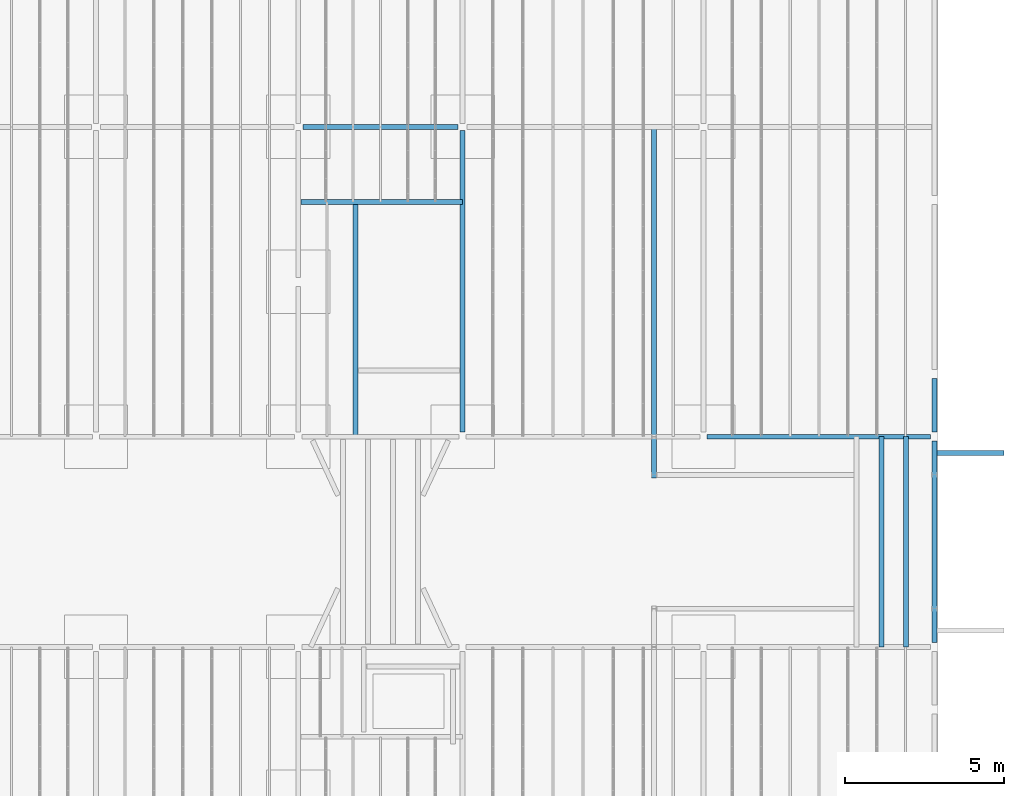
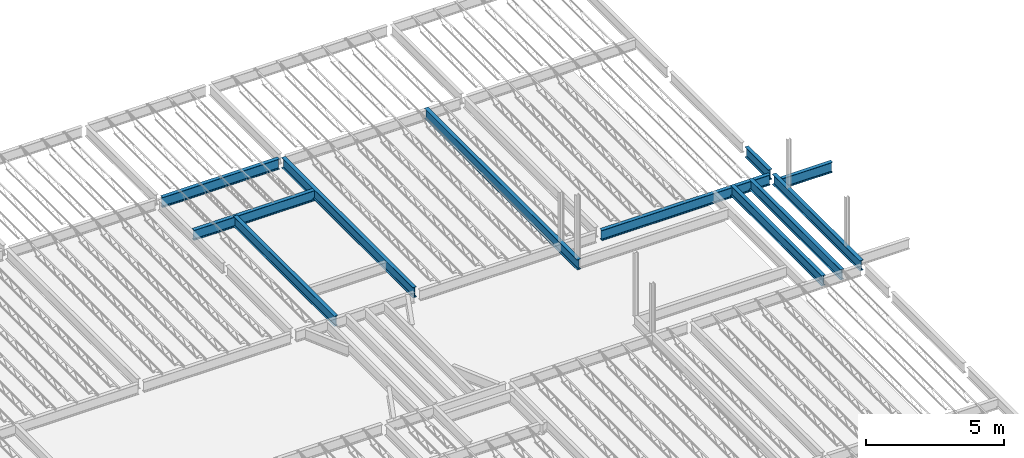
# One storey, part 14 of 75: 11 beams.
"""IFC2X3 building model written with IfcOpenShell, lengths in metres."""

from ifc_helpers import new_model, entity, si_unit, converted_unit, frame, frame_2d, origin, place, context, project, spatial, polyline, circle_curve, parameter, trimmed, segment, composite_curve, outline, extrude, material, element, save


model = new_model("IFC2X3")

# Units and contexts
model_context = context("Model", 3, precision=1e-09, world=origin())
plan_context = context("Plan", 3, precision=1e-09, world=origin())
ifc_project = project(units=[si_unit("LENGTHUNIT", "METRE"), si_unit("AREAUNIT", "SQUARE_METRE"), si_unit("VOLUMEUNIT", "CUBIC_METRE"), converted_unit("PLANEANGLEUNIT", "DEGREE", entity("IfcRatioMeasure", 0.01745329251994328), si_unit("PLANEANGLEUNIT", "RADIAN"), dimensions=[0, 0, 0, 0, 0, 0, 0]), si_unit("TIMEUNIT", "SECOND")], contexts=[model_context, plan_context])

# Site, building, storey
site_placement = place(None, origin())
site = spatial("IfcSite", under=ifc_project, at=site_placement, Name="Default", CompositionType="ELEMENT")
building_placement = place(site_placement, origin())
building = spatial("IfcBuilding", under=site, at=building_placement, CompositionType="ELEMENT")
storey_placement = place(building_placement, origin())
storey = spatial("IfcBuildingStorey", under=building, at=storey_placement, Name="First Floor", CompositionType="ELEMENT", Elevation=-3.531500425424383e-13)

# Beams
ifc_material = material(Name="Metal - Steel - 345 MPa")
beam_1_placement = place(storey_placement, frame((0.001880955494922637, 35.00999999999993, 4.404500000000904), z_axis=(0.0, 0.0, 1.0), x_axis=(0.0, 1.0, 0.0)))
element("IfcBeam", 1, at=beam_1_placement, inside=storey, material=ifc_material, Name="M_W-Wide Flange:W460X60:W460X60", ObjectType="M_W-Wide Flange:W460X60", context=model_context, shape_type="SweptSolid", body=[
    extrude(outline(composite_curve([segment(polyline([(0.2141999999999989, -0.07649999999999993), (0.2274999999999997, -0.07649999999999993)]), True, "CONTINUOUS"), segment(polyline([(0.2274999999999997, -0.07649999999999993), (0.2274999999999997, 0.07649999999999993)]), True, "CONTINUOUS"), segment(polyline([(0.2274999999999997, 0.07649999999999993), (0.2141999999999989, 0.07649999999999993)]), True, "CONTINUOUS"), segment(polyline([(0.2141999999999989, 0.07649999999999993), (0.2141999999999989, 0.0216999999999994)]), True, "CONTINUOUS"), segment(trimmed(circle_curve(frame_2d((0.1964999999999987, 0.0216999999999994), x_axis=(1.0, 0.0)), 0.0177), [parameter(269.9999999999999)], [parameter(359.9999999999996)], True, "PARAMETER"), False, "CONTINUOUS"), segment(polyline([(0.1964999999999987, 0.003999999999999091), (-0.1965000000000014, 0.003999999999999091)]), True, "CONTINUOUS"), segment(trimmed(circle_curve(frame_2d((-0.1965000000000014, 0.0216999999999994), x_axis=(0.0, -1.0)), 0.0177), [parameter(269.9999999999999)], [parameter(359.9999999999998)], True, "PARAMETER"), False, "CONTINUOUS"), segment(polyline([(-0.2142000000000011, 0.0216999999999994), (-0.2142000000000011, 0.07649999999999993)]), True, "CONTINUOUS"), segment(polyline([(-0.2142000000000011, 0.07649999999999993), (-0.2275000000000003, 0.07649999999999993)]), True, "CONTINUOUS"), segment(polyline([(-0.2275000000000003, 0.07649999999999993), (-0.2275000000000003, -0.07649999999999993)]), True, "CONTINUOUS"), segment(polyline([(-0.2275000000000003, -0.07649999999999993), (-0.2142000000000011, -0.07649999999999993)]), True, "CONTINUOUS"), segment(polyline([(-0.2142000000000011, -0.07649999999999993), (-0.2142000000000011, -0.0216999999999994)]), True, "CONTINUOUS"), segment(trimmed(circle_curve(frame_2d((-0.1965000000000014, -0.0216999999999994), x_axis=(-1.0, 0.0)), 0.0177), [parameter(269.9999999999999)], [parameter(359.9999999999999)], True, "PARAMETER"), False, "CONTINUOUS"), segment(polyline([(-0.1965000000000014, -0.003999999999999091), (0.1964999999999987, -0.003999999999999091)]), True, "CONTINUOUS"), segment(trimmed(circle_curve(frame_2d((0.1964999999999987, -0.0216999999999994), x_axis=(0.0, 1.0)), 0.0177), [parameter(269.9999999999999)], [parameter(5.088887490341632e-14)], True, "PARAMETER"), False, "CONTINUOUS"), segment(polyline([(0.2141999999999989, -0.0216999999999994), (0.2141999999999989, -0.07649999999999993)]), True, "CONTINUOUS")], self_intersect=False)), frame((0.0, 7.167180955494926, -0.2275000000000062), z_axis=(0.0, -1.0, 0.0), x_axis=(0.0, 0.0, -1.0)), (0.0, 0.0, 1.0), 7.050599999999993),
])
beam_2_placement = place(storey_placement, frame((0.0, 35.00980882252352, 4.46800000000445), z_axis=(0.0, 0.0, 1.0), x_axis=(-1.0, 0.0, 0.0)))
element("IfcBeam", 2, at=beam_2_placement, inside=storey, material=ifc_material, Name="M_W-Wide Flange:W460X60:W460X60", ObjectType="M_W-Wide Flange:W460X60", context=model_context, shape_type="SweptSolid", body=[
    extrude(outline(composite_curve([segment(polyline([(0.2142000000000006, -0.07650000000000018), (0.2275000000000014, -0.07650000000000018)]), True, "CONTINUOUS"), segment(polyline([(0.2275000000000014, -0.07650000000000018), (0.2275000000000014, 0.07650000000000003)]), True, "CONTINUOUS"), segment(polyline([(0.2275000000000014, 0.07650000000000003), (0.2142000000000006, 0.07650000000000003)]), True, "CONTINUOUS"), segment(polyline([(0.2142000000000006, 0.07650000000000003), (0.2142000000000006, 0.02169999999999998)]), True, "CONTINUOUS"), segment(trimmed(circle_curve(frame_2d((0.1965000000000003, 0.02169999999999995), x_axis=(1.0, 0.0)), 0.0177), [parameter(269.9999999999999)], [parameter(359.9999999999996)], True, "PARAMETER"), False, "CONTINUOUS"), segment(polyline([(0.1965000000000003, 0.003999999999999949), (-0.1964999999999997, 0.003999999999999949)]), True, "CONTINUOUS"), segment(trimmed(circle_curve(frame_2d((-0.1964999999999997, 0.02169999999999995), x_axis=(0.0, -1.0)), 0.0177), [parameter(269.9999999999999)], [parameter(359.9999999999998)], True, "PARAMETER"), False, "CONTINUOUS"), segment(polyline([(-0.2141999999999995, 0.02169999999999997), (-0.2141999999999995, 0.07650000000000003)]), True, "CONTINUOUS"), segment(polyline([(-0.2141999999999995, 0.07650000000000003), (-0.2274999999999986, 0.07650000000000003)]), True, "CONTINUOUS"), segment(polyline([(-0.2274999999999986, 0.07650000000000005), (-0.2274999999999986, -0.07649999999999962)]), True, "CONTINUOUS"), segment(polyline([(-0.2274999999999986, -0.07649999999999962), (-0.2141999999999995, -0.07649999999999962)]), True, "CONTINUOUS"), segment(polyline([(-0.2141999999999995, -0.07649999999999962), (-0.2141999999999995, -0.02170000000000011)]), True, "CONTINUOUS"), segment(trimmed(circle_curve(frame_2d((-0.1964999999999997, -0.02170000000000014), x_axis=(-1.0, 0.0)), 0.0177), [parameter(269.9999999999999)], [parameter(359.9999999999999)], True, "PARAMETER"), False, "CONTINUOUS"), segment(polyline([(-0.1964999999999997, -0.004000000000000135), (0.1965000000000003, -0.004000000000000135)]), True, "CONTINUOUS"), segment(trimmed(circle_curve(frame_2d((0.1965000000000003, -0.02170000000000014), x_axis=(0.0, 1.0)), 0.0177), [parameter(269.9999999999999)], [parameter(5.088887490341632e-14)], True, "PARAMETER"), False, "CONTINUOUS"), segment(polyline([(0.2142000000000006, -0.02170000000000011), (0.2142000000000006, -0.07650000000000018)]), True, "CONTINUOUS")], self_intersect=False)), frame((0.0, 6.488608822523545, -0.2275000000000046), z_axis=(0.0, -1.0, 0.0), x_axis=(0.0, 0.0, -1.0)), (0.0, 0.0, 1.0), 6.347599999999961),
])
beam_3_placement = place(storey_placement, frame((-8.840191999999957, 44.62709440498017, 4.46800000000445), z_axis=(0.0, 0.0, 1.0), x_axis=(-1.0, 0.0, 0.0)))
element("IfcBeam", 3, at=beam_3_placement, inside=storey, material=ifc_material, Name="M_W-Wide Flange:W460X60:W460X60", ObjectType="M_W-Wide Flange:W460X60", context=model_context, shape_type="SweptSolid", body=[
    extrude(outline(composite_curve([segment(polyline([(0.2141999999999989, -0.07650000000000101), (0.2274999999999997, -0.07650000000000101)]), True, "CONTINUOUS"), segment(polyline([(0.2274999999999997, -0.07650000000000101), (0.2274999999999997, 0.07649999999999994)]), True, "CONTINUOUS"), segment(polyline([(0.2274999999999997, 0.07649999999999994), (0.2141999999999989, 0.07649999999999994)]), True, "CONTINUOUS"), segment(polyline([(0.2141999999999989, 0.07649999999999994), (0.2141999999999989, 0.0216999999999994)]), True, "CONTINUOUS"), segment(trimmed(circle_curve(frame_2d((0.1964999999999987, 0.0216999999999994), x_axis=(0.0, 1.0)), 0.0177), [parameter(180.0)], [parameter(269.9999999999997)], True, "PARAMETER"), False, "CONTINUOUS"), segment(polyline([(0.1964999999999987, 0.00399999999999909), (-0.1965000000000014, 0.00399999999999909)]), True, "CONTINUOUS"), segment(trimmed(circle_curve(frame_2d((-0.1965000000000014, 0.0216999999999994), x_axis=(0.0, 1.0)), 0.0177), [parameter(90.00000000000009)], [parameter(179.9999999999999)], True, "PARAMETER"), False, "CONTINUOUS"), segment(polyline([(-0.2142000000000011, 0.0216999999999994), (-0.2142000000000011, 0.07649999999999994)]), True, "CONTINUOUS"), segment(polyline([(-0.2142000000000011, 0.07649999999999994), (-0.2275000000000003, 0.07649999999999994)]), True, "CONTINUOUS"), segment(polyline([(-0.2275000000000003, 0.07649999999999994), (-0.2275000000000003, -0.07649999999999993)]), True, "CONTINUOUS"), segment(polyline([(-0.2275000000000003, -0.07649999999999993), (-0.2142000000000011, -0.07649999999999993)]), True, "CONTINUOUS"), segment(polyline([(-0.2142000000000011, -0.07649999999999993), (-0.2142000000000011, -0.02170000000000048)]), True, "CONTINUOUS"), segment(trimmed(circle_curve(frame_2d((-0.1965000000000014, -0.02170000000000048), x_axis=(0.0, 1.0)), 0.0177), [parameter(359.9999999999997)], [parameter(89.99999999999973)], True, "PARAMETER"), False, "CONTINUOUS"), segment(polyline([(-0.1965000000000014, -0.004000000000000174), (0.1964999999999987, -0.004000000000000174)]), True, "CONTINUOUS"), segment(trimmed(circle_curve(frame_2d((0.1964999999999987, -0.02170000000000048), x_axis=(0.0, 1.0)), 0.0177), [parameter(269.9999999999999)], [parameter(0.0)], True, "PARAMETER"), False, "CONTINUOUS"), segment(polyline([(0.2141999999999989, -0.02170000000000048), (0.2141999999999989, -0.07650000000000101)]), True, "CONTINUOUS")], self_intersect=False)), frame((0.0, 10.92209440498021, -0.2275000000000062), z_axis=(0.0, -1.0, 0.0), x_axis=(0.0, 0.0, -1.0)), (0.0, 0.0, 1.0), 11.07500000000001),
])
beam_4_placement = place(storey_placement, frame((0.0, 36.99916251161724, 4.46800000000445), z_axis=(0.0, 0.0, 1.0), x_axis=(-1.0, 0.0, 0.0)))
element("IfcBeam", 4, at=beam_4_placement, inside=storey, material=ifc_material, Name="M_W-Wide Flange:W460X60:W460X60", ObjectType="M_W-Wide Flange:W460X60", context=model_context, shape_type="SweptSolid", body=[
    extrude(outline(composite_curve([segment(polyline([(0.2142000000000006, -0.07650000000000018), (0.2275000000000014, -0.07650000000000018)]), True, "CONTINUOUS"), segment(polyline([(0.2275000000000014, -0.07650000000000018), (0.2275000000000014, 0.07650000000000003)]), True, "CONTINUOUS"), segment(polyline([(0.2275000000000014, 0.07650000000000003), (0.2142000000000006, 0.07650000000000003)]), True, "CONTINUOUS"), segment(polyline([(0.2142000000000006, 0.07650000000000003), (0.2142000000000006, 0.02169999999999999)]), True, "CONTINUOUS"), segment(trimmed(circle_curve(frame_2d((0.1965000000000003, 0.02169999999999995), x_axis=(0.0, 1.0)), 0.0177), [parameter(180.0)], [parameter(269.9999999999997)], True, "PARAMETER"), False, "CONTINUOUS"), segment(polyline([(0.1965000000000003, 0.003999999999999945), (-0.1964999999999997, 0.003999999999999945)]), True, "CONTINUOUS"), segment(trimmed(circle_curve(frame_2d((-0.1964999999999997, 0.02169999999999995), x_axis=(0.0, 1.0)), 0.0177), [parameter(90.00000000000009)], [parameter(179.9999999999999)], True, "PARAMETER"), False, "CONTINUOUS"), segment(polyline([(-0.2141999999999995, 0.02169999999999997), (-0.2141999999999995, 0.07650000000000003)]), True, "CONTINUOUS"), segment(polyline([(-0.2141999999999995, 0.07650000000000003), (-0.2274999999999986, 0.07650000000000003)]), True, "CONTINUOUS"), segment(polyline([(-0.2274999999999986, 0.07650000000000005), (-0.2274999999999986, -0.07649999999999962)]), True, "CONTINUOUS"), segment(polyline([(-0.2274999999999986, -0.07649999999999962), (-0.2141999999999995, -0.07649999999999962)]), True, "CONTINUOUS"), segment(polyline([(-0.2141999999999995, -0.07649999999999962), (-0.2141999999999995, -0.02170000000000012)]), True, "CONTINUOUS"), segment(trimmed(circle_curve(frame_2d((-0.1964999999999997, -0.02170000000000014), x_axis=(0.0, 1.0)), 0.0177), [parameter(359.9999999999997)], [parameter(89.99999999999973)], True, "PARAMETER"), False, "CONTINUOUS"), segment(polyline([(-0.1964999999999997, -0.004000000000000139), (0.1965000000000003, -0.004000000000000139)]), True, "CONTINUOUS"), segment(trimmed(circle_curve(frame_2d((0.1965000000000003, -0.02170000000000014), x_axis=(0.0, 1.0)), 0.0177), [parameter(269.9999999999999)], [parameter(0.0)], True, "PARAMETER"), False, "CONTINUOUS"), segment(polyline([(0.2142000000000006, -0.0217000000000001), (0.2142000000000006, -0.07650000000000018)]), True, "CONTINUOUS")], self_intersect=False)), frame((0.0, 1.847962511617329, -0.2275000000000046), z_axis=(0.0, -1.0, 0.0), x_axis=(0.0, 0.0, -1.0)), (0.0, 0.0, 1.0), 1.698844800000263),
])
beam_5_placement = place(storey_placement, frame((-0.8901037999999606, 28.65946174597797, 4.46800000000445)))
element("IfcBeam", 5, at=beam_5_placement, inside=storey, material=ifc_material, Name="M_W-Wide Flange:W460X60:W460X60", ObjectType="M_W-Wide Flange:W460X60", context=model_context, shape_type="SweptSolid", body=[
    extrude(outline(composite_curve([segment(polyline([(-0.07650000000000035, -0.2142), (-0.07650000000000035, -0.2275000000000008)]), True, "CONTINUOUS"), segment(polyline([(-0.07650000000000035, -0.2275000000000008), (0.07649999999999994, -0.2275000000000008)]), True, "CONTINUOUS"), segment(polyline([(0.07649999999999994, -0.2275000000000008), (0.07649999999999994, -0.2142)]), True, "CONTINUOUS"), segment(polyline([(0.07649999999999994, -0.2142), (0.02169999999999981, -0.2142)]), True, "CONTINUOUS"), segment(trimmed(circle_curve(frame_2d((0.02169999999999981, -0.1964999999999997), x_axis=(1.0, 0.0)), 0.0177), [parameter(180.0)], [parameter(269.9999999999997)], True, "PARAMETER"), False, "CONTINUOUS"), segment(polyline([(0.003999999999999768, -0.1964999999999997), (0.003999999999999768, 0.1965000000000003)]), True, "CONTINUOUS"), segment(trimmed(circle_curve(frame_2d((0.02169999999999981, 0.1965000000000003), x_axis=(1.0, 0.0)), 0.0177), [parameter(90.00000000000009)], [parameter(179.9999999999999)], True, "PARAMETER"), False, "CONTINUOUS"), segment(polyline([(0.02169999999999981, 0.2142000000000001), (0.07649999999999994, 0.2142000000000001)]), True, "CONTINUOUS"), segment(polyline([(0.07649999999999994, 0.2142000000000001), (0.07649999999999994, 0.2274999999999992)]), True, "CONTINUOUS"), segment(polyline([(0.07649999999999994, 0.2274999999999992), (-0.0764999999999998, 0.2274999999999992)]), True, "CONTINUOUS"), segment(polyline([(-0.0764999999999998, 0.2274999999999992), (-0.0764999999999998, 0.2142000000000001)]), True, "CONTINUOUS"), segment(polyline([(-0.0764999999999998, 0.2142000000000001), (-0.02170000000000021, 0.2142000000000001)]), True, "CONTINUOUS"), segment(trimmed(circle_curve(frame_2d((-0.02170000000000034, 0.1965000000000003), x_axis=(1.0, 0.0)), 0.0177), [parameter(359.9999999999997)], [parameter(89.99999999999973)], True, "PARAMETER"), False, "CONTINUOUS"), segment(polyline([(-0.004000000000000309, 0.1965000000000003), (-0.004000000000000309, -0.1964999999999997)]), True, "CONTINUOUS"), segment(trimmed(circle_curve(frame_2d((-0.02170000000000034, -0.1964999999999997), x_axis=(1.0, 0.0)), 0.0177), [parameter(269.9999999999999)], [parameter(0.0)], True, "PARAMETER"), False, "CONTINUOUS"), segment(polyline([(-0.02170000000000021, -0.2142), (-0.07650000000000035, -0.2142)]), True, "CONTINUOUS")], self_intersect=False)), frame((0.0, -0.2794617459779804, -0.2275000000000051), z_axis=(0.0, -1.0, 0.0), x_axis=(1.0, 0.0, 0.0)), (0.0, 0.0, -1.0), 6.629999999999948),
])
beam_6_placement = place(storey_placement, frame((-1.670103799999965, 28.65946174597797, 4.46800000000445)))
element("IfcBeam", 6, at=beam_6_placement, inside=storey, material=ifc_material, Name="M_W-Wide Flange:W460X60:W460X60", ObjectType="M_W-Wide Flange:W460X60", context=model_context, shape_type="SweptSolid", body=[
    extrude(outline(composite_curve([segment(polyline([(-0.07649999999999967, -0.2142), (-0.07649999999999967, -0.2275000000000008)]), True, "CONTINUOUS"), segment(polyline([(-0.07649999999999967, -0.2275000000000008), (0.07650000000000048, -0.2275000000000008)]), True, "CONTINUOUS"), segment(polyline([(0.07650000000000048, -0.2275000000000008), (0.07650000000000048, -0.2142)]), True, "CONTINUOUS"), segment(polyline([(0.07650000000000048, -0.2142), (0.02170000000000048, -0.2142)]), True, "CONTINUOUS"), segment(trimmed(circle_curve(frame_2d((0.02170000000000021, -0.1964999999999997), x_axis=(1.0, 0.0)), 0.0177), [parameter(180.0)], [parameter(269.9999999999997)], True, "PARAMETER"), False, "CONTINUOUS"), segment(polyline([(0.004000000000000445, -0.1964999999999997), (0.004000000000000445, 0.1965000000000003)]), True, "CONTINUOUS"), segment(trimmed(circle_curve(frame_2d((0.02170000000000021, 0.1965000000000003), x_axis=(1.0, 0.0)), 0.0177), [parameter(90.00000000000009)], [parameter(179.9999999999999)], True, "PARAMETER"), False, "CONTINUOUS"), segment(polyline([(0.02170000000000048, 0.2142000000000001), (0.07650000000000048, 0.2142000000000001)]), True, "CONTINUOUS"), segment(polyline([(0.07650000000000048, 0.2142000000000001), (0.07650000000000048, 0.2274999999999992)]), True, "CONTINUOUS"), segment(polyline([(0.07650000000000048, 0.2274999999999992), (-0.07649999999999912, 0.2274999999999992)]), True, "CONTINUOUS"), segment(polyline([(-0.07649999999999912, 0.2274999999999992), (-0.07649999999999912, 0.2142000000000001)]), True, "CONTINUOUS"), segment(polyline([(-0.07649999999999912, 0.2142000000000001), (-0.02169999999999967, 0.2142000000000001)]), True, "CONTINUOUS"), segment(trimmed(circle_curve(frame_2d((-0.02169999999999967, 0.1965000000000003), x_axis=(1.0, 0.0)), 0.0177), [parameter(359.9999999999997)], [parameter(89.99999999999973)], True, "PARAMETER"), False, "CONTINUOUS"), segment(polyline([(-0.003999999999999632, 0.1965000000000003), (-0.003999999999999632, -0.1964999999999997)]), True, "CONTINUOUS"), segment(trimmed(circle_curve(frame_2d((-0.02169999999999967, -0.1964999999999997), x_axis=(1.0, 0.0)), 0.0177), [parameter(269.9999999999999)], [parameter(0.0)], True, "PARAMETER"), False, "CONTINUOUS"), segment(polyline([(-0.02169999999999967, -0.2142), (-0.07649999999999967, -0.2142)]), True, "CONTINUOUS")], self_intersect=False)), frame((0.0, -0.2794617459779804, -0.2275000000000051), z_axis=(0.0, -1.0, 0.0), x_axis=(1.0, 0.0, 0.0)), (0.0, 0.0, -1.0), 6.629999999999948),
])
beam_7_placement = place(storey_placement, frame((-20.06264315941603, 44.78, 4.404500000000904), z_axis=(0.0, 0.0, 1.0), x_axis=(0.0, -1.0, 0.0)))
element("IfcBeam", 7, at=beam_7_placement, inside=storey, material=ifc_material, Name="M_W-Wide Flange:W460X60:W460X60", ObjectType="M_W-Wide Flange:W460X60", context=model_context, shape_type="SweptSolid", body=[
    extrude(outline(composite_curve([segment(polyline([(-0.07649999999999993, -0.2142000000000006), (-0.07649999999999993, -0.2275000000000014)]), True, "CONTINUOUS"), segment(polyline([(-0.07649999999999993, -0.2275000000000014), (0.07649999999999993, -0.2275000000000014)]), True, "CONTINUOUS"), segment(polyline([(0.07649999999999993, -0.2275000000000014), (0.07649999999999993, -0.2142000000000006)]), True, "CONTINUOUS"), segment(polyline([(0.07649999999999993, -0.2142000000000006), (0.02170000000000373, -0.2142000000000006)]), True, "CONTINUOUS"), segment(trimmed(circle_curve(frame_2d((0.02170000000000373, -0.1965000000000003), x_axis=(0.0, -1.0)), 0.0177), [parameter(269.9999999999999)], [parameter(359.9999999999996)], True, "PARAMETER"), False, "CONTINUOUS"), segment(polyline([(0.003999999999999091, -0.1965000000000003), (0.003999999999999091, 0.1964999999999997)]), True, "CONTINUOUS"), segment(trimmed(circle_curve(frame_2d((0.02170000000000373, 0.1964999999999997), x_axis=(-1.0, 0.0)), 0.0177), [parameter(269.9999999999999)], [parameter(359.9999999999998)], True, "PARAMETER"), False, "CONTINUOUS"), segment(polyline([(0.02170000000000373, 0.2141999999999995), (0.07649999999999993, 0.2141999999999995)]), True, "CONTINUOUS"), segment(polyline([(0.07649999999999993, 0.2141999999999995), (0.07649999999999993, 0.2274999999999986)]), True, "CONTINUOUS"), segment(polyline([(0.07649999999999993, 0.2274999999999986), (-0.07649999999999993, 0.2274999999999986)]), True, "CONTINUOUS"), segment(polyline([(-0.07649999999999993, 0.2274999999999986), (-0.07649999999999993, 0.2141999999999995)]), True, "CONTINUOUS"), segment(polyline([(-0.07649999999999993, 0.2141999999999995), (-0.02170000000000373, 0.2141999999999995)]), True, "CONTINUOUS"), segment(trimmed(circle_curve(frame_2d((-0.02169999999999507, 0.1964999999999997), x_axis=(0.0, 1.0)), 0.0177), [parameter(269.9999999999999)], [parameter(359.9999999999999)], True, "PARAMETER"), False, "CONTINUOUS"), segment(polyline([(-0.003999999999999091, 0.1964999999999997), (-0.003999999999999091, -0.1965000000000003)]), True, "CONTINUOUS"), segment(trimmed(circle_curve(frame_2d((-0.02169999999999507, -0.1965000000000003), x_axis=(1.0, 0.0)), 0.0177), [parameter(269.9999999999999)], [parameter(5.088887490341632e-14)], True, "PARAMETER"), False, "CONTINUOUS"), segment(polyline([(-0.02170000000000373, -0.2142000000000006), (-0.07649999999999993, -0.2142000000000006)]), True, "CONTINUOUS")], self_intersect=False)), frame((0.0, 0.1438431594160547, -0.2275000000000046), z_axis=(0.0, -1.0, 0.0), x_axis=(1.0, 0.0, 0.0)), (0.0, 0.0, -1.0), 4.897625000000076),
])
beam_8_placement = place(storey_placement, frame((-14.87997499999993, 44.78140165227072, 4.46800000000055), z_axis=(0.0, 0.0, 1.0), x_axis=(-1.0, 0.0, 0.0)))
element("IfcBeam", 8, at=beam_8_placement, inside=storey, material=ifc_material, Name="M_W-Wide Flange:W460X60:W460X60", ObjectType="M_W-Wide Flange:W460X60", context=model_context, shape_type="SweptSolid", body=[
    extrude(outline(composite_curve([segment(polyline([(0.2141999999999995, -0.07649999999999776), (0.2275000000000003, -0.07649999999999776)]), True, "CONTINUOUS"), segment(polyline([(0.2275000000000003, -0.07649999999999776), (0.2275000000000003, 0.07650000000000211)]), True, "CONTINUOUS"), segment(polyline([(0.2275000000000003, 0.07650000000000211), (0.2141999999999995, 0.07650000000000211)]), True, "CONTINUOUS"), segment(polyline([(0.2141999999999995, 0.07650000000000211), (0.2141999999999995, 0.02170000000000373)]), True, "CONTINUOUS"), segment(trimmed(circle_curve(frame_2d((0.1964999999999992, 0.02170000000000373), x_axis=(1.0, 0.0)), 0.0177), [parameter(269.9999999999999)], [parameter(359.9999999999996)], True, "PARAMETER"), False, "CONTINUOUS"), segment(polyline([(0.1964999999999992, 0.004000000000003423), (-0.1965000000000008, 0.004000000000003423)]), True, "CONTINUOUS"), segment(trimmed(circle_curve(frame_2d((-0.1965000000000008, 0.02170000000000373), x_axis=(0.0, -1.0)), 0.0177), [parameter(269.9999999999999)], [parameter(359.9999999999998)], True, "PARAMETER"), False, "CONTINUOUS"), segment(polyline([(-0.2142000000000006, 0.02170000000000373), (-0.2142000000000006, 0.07650000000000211)]), True, "CONTINUOUS"), segment(polyline([(-0.2142000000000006, 0.07650000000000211), (-0.2274999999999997, 0.07650000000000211)]), True, "CONTINUOUS"), segment(polyline([(-0.2274999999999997, 0.07650000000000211), (-0.2274999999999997, -0.07649999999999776)]), True, "CONTINUOUS"), segment(polyline([(-0.2274999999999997, -0.07649999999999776), (-0.2142000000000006, -0.07649999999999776)]), True, "CONTINUOUS"), segment(polyline([(-0.2142000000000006, -0.07649999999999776), (-0.2142000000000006, -0.02169999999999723)]), True, "CONTINUOUS"), segment(trimmed(circle_curve(frame_2d((-0.1965000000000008, -0.02169999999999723), x_axis=(-1.0, 0.0)), 0.0177), [parameter(269.9999999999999)], [parameter(359.9999999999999)], True, "PARAMETER"), False, "CONTINUOUS"), segment(polyline([(-0.1965000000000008, -0.003999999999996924), (0.1964999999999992, -0.003999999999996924)]), True, "CONTINUOUS"), segment(trimmed(circle_curve(frame_2d((0.1964999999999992, -0.02169999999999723), x_axis=(0.0, 1.0)), 0.0177), [parameter(269.9999999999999)], [parameter(5.088887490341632e-14)], True, "PARAMETER"), False, "CONTINUOUS"), segment(polyline([(0.2141999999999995, -0.02169999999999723), (0.2141999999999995, -0.07649999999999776)]), True, "CONTINUOUS")], self_intersect=False)), frame((0.0, 9.63020165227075, -0.2275000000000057), z_axis=(0.0, -1.0, 0.0), x_axis=(0.0, 0.0, -1.0)), (0.0, 0.0, 1.0), 9.514099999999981),
])
beam_9_placement = place(storey_placement, frame((-18.25205859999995, 35.16059484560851, 4.46800000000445)))
element("IfcBeam", 9, at=beam_9_placement, inside=storey, material=ifc_material, Name="M_W-Wide Flange:W460X60:W460X60", ObjectType="M_W-Wide Flange:W460X60", context=model_context, shape_type="SweptSolid", body=[
    extrude(outline(composite_curve([segment(polyline([(-0.0765000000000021, -0.2142), (-0.0765000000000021, -0.2275000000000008)]), True, "CONTINUOUS"), segment(polyline([(-0.0765000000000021, -0.2275000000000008), (0.07649999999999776, -0.2275000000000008)]), True, "CONTINUOUS"), segment(polyline([(0.07649999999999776, -0.2275000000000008), (0.07649999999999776, -0.2142)]), True, "CONTINUOUS"), segment(polyline([(0.07649999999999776, -0.2142), (0.0216999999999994, -0.2142)]), True, "CONTINUOUS"), segment(trimmed(circle_curve(frame_2d((0.0216999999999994, -0.1964999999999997), x_axis=(1.0, 0.0)), 0.0177), [parameter(180.0)], [parameter(269.9999999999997)], True, "PARAMETER"), False, "CONTINUOUS"), segment(polyline([(0.00399999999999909, -0.1964999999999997), (0.00399999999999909, 0.1965000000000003)]), True, "CONTINUOUS"), segment(trimmed(circle_curve(frame_2d((0.0216999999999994, 0.1965000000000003), x_axis=(1.0, 0.0)), 0.0177), [parameter(90.00000000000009)], [parameter(179.9999999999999)], True, "PARAMETER"), False, "CONTINUOUS"), segment(polyline([(0.0216999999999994, 0.2142000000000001), (0.07649999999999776, 0.2142000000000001)]), True, "CONTINUOUS"), segment(polyline([(0.07649999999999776, 0.2142000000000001), (0.07649999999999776, 0.2274999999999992)]), True, "CONTINUOUS"), segment(polyline([(0.07649999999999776, 0.2274999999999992), (-0.0765000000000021, 0.2274999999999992)]), True, "CONTINUOUS"), segment(polyline([(-0.0765000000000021, 0.2274999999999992), (-0.0765000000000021, 0.2142000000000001)]), True, "CONTINUOUS"), segment(polyline([(-0.0765000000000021, 0.2142000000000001), (-0.02170000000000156, 0.2142000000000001)]), True, "CONTINUOUS"), segment(trimmed(circle_curve(frame_2d((-0.02170000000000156, 0.1965000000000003), x_axis=(1.0, 0.0)), 0.0177), [parameter(359.9999999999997)], [parameter(89.99999999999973)], True, "PARAMETER"), False, "CONTINUOUS"), segment(polyline([(-0.004000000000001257, 0.1965000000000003), (-0.004000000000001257, -0.1964999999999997)]), True, "CONTINUOUS"), segment(trimmed(circle_curve(frame_2d((-0.02170000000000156, -0.1964999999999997), x_axis=(1.0, 0.0)), 0.0177), [parameter(269.9999999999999)], [parameter(0.0)], True, "PARAMETER"), False, "CONTINUOUS"), segment(polyline([(-0.02170000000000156, -0.2142), (-0.0765000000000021, -0.2142)]), True, "CONTINUOUS")], self_intersect=False)), frame((0.0, -0.1505948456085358, -0.2275000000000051), z_axis=(0.0, -1.0, 0.0), x_axis=(1.0, 0.0, 0.0)), (0.0, 0.0, -1.0), 7.324999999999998),
])
beam_10_placement = place(storey_placement, frame((1.889788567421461, 34.49499999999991, 4.46800000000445), z_axis=(0.0, 0.0, 1.0), x_axis=(0.0, 1.0, 0.0)))
element("IfcBeam", 10, at=beam_10_placement, inside=storey, material=ifc_material, Name="M_W-Wide Flange:W460X60:W460X60", ObjectType="M_W-Wide Flange:W460X60", context=model_context, shape_type="SweptSolid", body=[
    extrude(outline(composite_curve([segment(polyline([(0.2142000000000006, -0.07650000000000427), (0.2275000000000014, -0.07650000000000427)]), True, "CONTINUOUS"), segment(polyline([(0.2275000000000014, -0.07650000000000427), (0.2275000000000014, 0.0764999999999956)]), True, "CONTINUOUS"), segment(polyline([(0.2275000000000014, 0.0764999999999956), (0.2142000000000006, 0.0764999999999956)]), True, "CONTINUOUS"), segment(polyline([(0.2142000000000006, 0.0764999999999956), (0.2142000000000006, 0.02169999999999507)]), True, "CONTINUOUS"), segment(trimmed(circle_curve(frame_2d((0.1965000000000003, 0.02169999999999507), x_axis=(0.0, 1.0)), 0.0177), [parameter(180.0)], [parameter(269.9999999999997)], True, "PARAMETER"), False, "CONTINUOUS"), segment(polyline([(0.1965000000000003, 0.00399999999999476), (-0.1964999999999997, 0.00399999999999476)]), True, "CONTINUOUS"), segment(trimmed(circle_curve(frame_2d((-0.1964999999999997, 0.02169999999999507), x_axis=(0.0, 1.0)), 0.0177), [parameter(90.00000000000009)], [parameter(179.9999999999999)], True, "PARAMETER"), False, "CONTINUOUS"), segment(polyline([(-0.2141999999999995, 0.02169999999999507), (-0.2141999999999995, 0.0764999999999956)]), True, "CONTINUOUS"), segment(polyline([(-0.2141999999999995, 0.0764999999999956), (-0.2274999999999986, 0.0764999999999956)]), True, "CONTINUOUS"), segment(polyline([(-0.2274999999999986, 0.0764999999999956), (-0.2274999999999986, -0.07650000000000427)]), True, "CONTINUOUS"), segment(polyline([(-0.2274999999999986, -0.07650000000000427), (-0.2141999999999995, -0.07650000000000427)]), True, "CONTINUOUS"), segment(polyline([(-0.2141999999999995, -0.07650000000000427), (-0.2141999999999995, -0.02170000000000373)]), True, "CONTINUOUS"), segment(trimmed(circle_curve(frame_2d((-0.1964999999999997, -0.02170000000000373), x_axis=(0.0, 1.0)), 0.0177), [parameter(359.9999999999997)], [parameter(89.99999999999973)], True, "PARAMETER"), False, "CONTINUOUS"), segment(polyline([(-0.1964999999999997, -0.004000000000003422), (0.1965000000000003, -0.004000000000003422)]), True, "CONTINUOUS"), segment(trimmed(circle_curve(frame_2d((0.1965000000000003, -0.02170000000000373), x_axis=(0.0, 1.0)), 0.0177), [parameter(269.9999999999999)], [parameter(0.0)], True, "PARAMETER"), False, "CONTINUOUS"), segment(polyline([(0.2142000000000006, -0.02170000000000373), (0.2142000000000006, -0.07650000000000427)]), True, "CONTINUOUS")], self_intersect=False)), frame((0.0, 1.800588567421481, -0.2275000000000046), z_axis=(0.0, -1.0, 0.0), x_axis=(0.0, 0.0, -1.0)), (0.0, 0.0, 1.0), 2.107099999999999),
])
beam_11_placement = place(storey_placement, frame((-19.91519806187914, 42.41202780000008, 4.404500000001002), z_axis=(0.0, 0.0, 1.0), x_axis=(0.0, -1.0, 0.0)))
element("IfcBeam", 11, at=beam_11_placement, inside=storey, material=ifc_material, Name="M_W-Wide Flange:W460X60:W460X60", ObjectType="M_W-Wide Flange:W460X60", context=model_context, shape_type="SweptSolid", body=[
    extrude(outline(composite_curve([segment(polyline([(-0.07650000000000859, -0.2142000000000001), (-0.07650000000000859, -0.2275000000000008)]), True, "CONTINUOUS"), segment(polyline([(-0.07650000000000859, -0.2275000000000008), (0.07649999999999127, -0.2275000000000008)]), True, "CONTINUOUS"), segment(polyline([(0.07649999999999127, -0.2275000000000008), (0.07649999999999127, -0.2142000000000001)]), True, "CONTINUOUS"), segment(polyline([(0.07649999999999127, -0.2142000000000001), (0.02169999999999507, -0.2142000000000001)]), True, "CONTINUOUS"), segment(trimmed(circle_curve(frame_2d((0.02169999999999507, -0.1964999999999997), x_axis=(1.0, 0.0)), 0.0177), [parameter(180.0)], [parameter(269.9999999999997)], True, "PARAMETER"), False, "CONTINUOUS"), segment(polyline([(0.003999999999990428, -0.1964999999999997), (0.003999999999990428, 0.1965000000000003)]), True, "CONTINUOUS"), segment(trimmed(circle_curve(frame_2d((0.02169999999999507, 0.1965000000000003), x_axis=(1.0, 0.0)), 0.0177), [parameter(90.00000000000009)], [parameter(179.9999999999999)], True, "PARAMETER"), False, "CONTINUOUS"), segment(polyline([(0.02169999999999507, 0.2142), (0.07649999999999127, 0.2142)]), True, "CONTINUOUS"), segment(polyline([(0.07649999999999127, 0.2142), (0.07649999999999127, 0.2274999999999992)]), True, "CONTINUOUS"), segment(polyline([(0.07649999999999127, 0.2274999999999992), (-0.07650000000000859, 0.2274999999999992)]), True, "CONTINUOUS"), segment(polyline([(-0.07650000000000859, 0.2274999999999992), (-0.07650000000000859, 0.2142)]), True, "CONTINUOUS"), segment(polyline([(-0.07650000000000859, 0.2142), (-0.02170000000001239, 0.2142)]), True, "CONTINUOUS"), segment(trimmed(circle_curve(frame_2d((-0.02170000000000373, 0.1965000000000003), x_axis=(1.0, 0.0)), 0.0177), [parameter(359.9999999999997)], [parameter(89.99999999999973)], True, "PARAMETER"), False, "CONTINUOUS"), segment(polyline([(-0.004000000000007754, 0.1965000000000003), (-0.004000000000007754, -0.1964999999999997)]), True, "CONTINUOUS"), segment(trimmed(circle_curve(frame_2d((-0.02170000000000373, -0.1964999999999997), x_axis=(1.0, 0.0)), 0.0177), [parameter(269.9999999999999)], [parameter(0.0)], True, "PARAMETER"), False, "CONTINUOUS"), segment(polyline([(-0.02170000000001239, -0.2142000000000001), (-0.07650000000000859, -0.2142000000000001)]), True, "CONTINUOUS")], self_intersect=False)), frame((0.0, -0.05560193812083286, -0.2275000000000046), z_axis=(0.0, -1.0, 0.0), x_axis=(1.0, 0.0, 0.0)), (0.0, 0.0, -1.0), 5.090825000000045),
])

save(model, "model.ifc")
